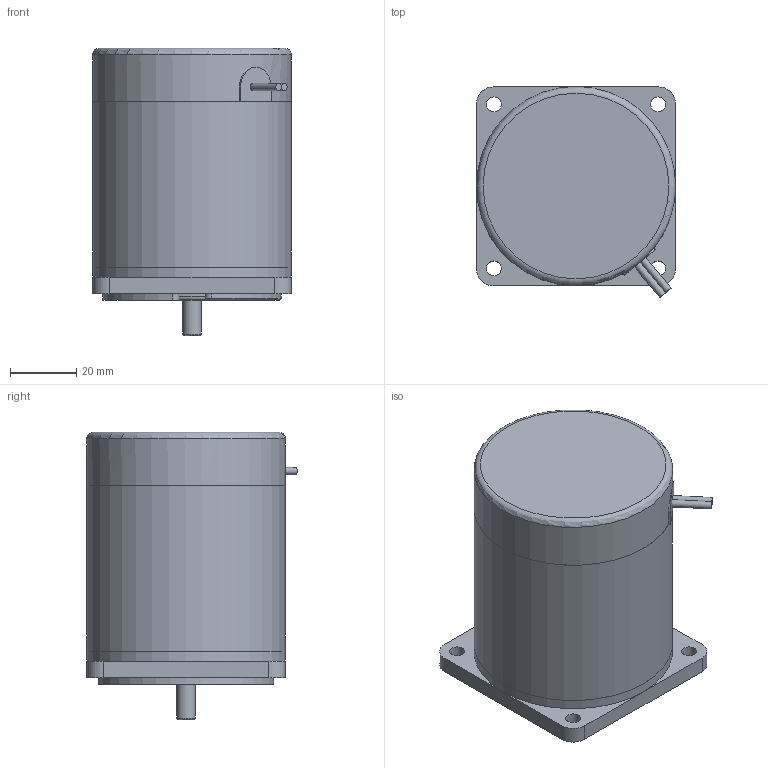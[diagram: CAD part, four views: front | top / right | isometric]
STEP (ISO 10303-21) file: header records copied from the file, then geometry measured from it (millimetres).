
FILE_DESCRIPTION((''),'2;1');
FILE_NAME('D:\연구개발부2팀 1파트\10_진행업무\3D_60각\S6D10-ㅁA.stp','2013-06-05T16:35:22',('song'),(''),'Autodesk Inventor 2011','Autodesk Inventor 2011','');
FILE_SCHEMA(('AUTOMOTIVE_DESIGN { 1 0 10303 214 1 1 1 1 }'));
Length unit declared in the file: millimetre
Products named in the file (9): S6D10; REAR HOUSING ASS'Y(신형); REAR HOUSING(신형); cord bush; PIPE HOUSING; FRONT HOUSING(신형); NF EN ISO 7045 - Z M4 x 40 - 4.8 - Z; AS 1968 4; shaft_chisl
Assembly tree (9 placements, depth 2):
  S6D10
    PIPE HOUSING
    FRONT HOUSING(신형)
    NF EN ISO 7045 - Z M4 x 40 - 4.8 - Z  x2
    AS 1968 4  x2
    shaft_chisl
  REAR HOUSING ASS'Y(신형)
    REAR HOUSING(신형)
    cord bush
Bounding box: 60 x 63.59 x 86.7 mm (x, y, z)
Volume: 214202.1 mm3; surface area: 36331.3 mm2
Topology: 9 solids, 9 shells, 169 faces, 399 edges, 255 vertices
Faces by surface type: plane 77, cylinder 39, cone 38, torus 13, sphere 2
Full cylindrical faces by diameter (mm): 2.2 x2, 3.621 x2, 4 x2, 4.2 x2, 4.5 x4, 5.57 x1, 8 x3, 9 x1, 30 x1, 60 x3
Entity records: 3909 total; most frequent: CARTESIAN_POINT 941, DIRECTION 613, ORIENTED_EDGE 500, AXIS2_PLACEMENT_3D 271, EDGE_CURVE 250, VERTEX_POINT 175, EDGE_LOOP 168, FACE_OUTER_BOUND 121
